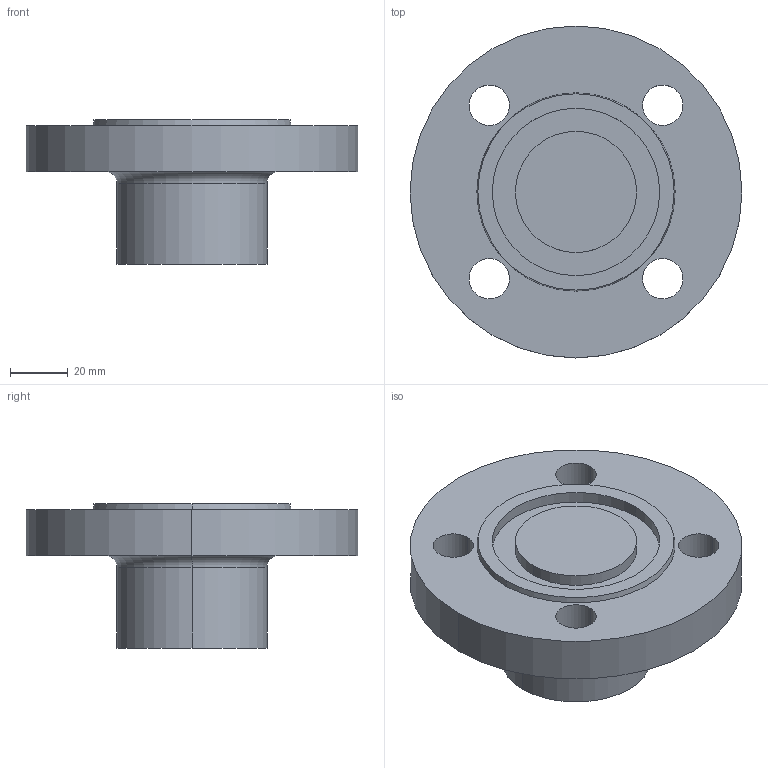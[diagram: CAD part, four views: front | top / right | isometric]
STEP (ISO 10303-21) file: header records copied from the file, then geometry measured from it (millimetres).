
FILE_DESCRIPTION (( 'STEP AP214' ), '1' );
FILE_NAME ('PN40 DN25 Type 21(i) - Type D Face.STEP', '2018-12-29T20:20:54', ( '' ), ( '' ), 'SwSTEP 2.0', 'SolidWorks 2019', '' );
FILE_SCHEMA (( 'AUTOMOTIVE_DESIGN' ));
Length unit declared in the file: millimetre
Products named in the file (1): PN40 DN25 Type 21(i) - Type D Face
Bounding box: 115 x 115 x 50 mm (x, y, z)
Volume: 227189.8 mm3; surface area: 34708.9 mm2
Topology: 1 solids, 1 shells, 26 faces, 58 edges, 38 vertices
Faces by surface type: cylinder 16, plane 6, torus 2, cone 2
Entity records: 796 total; most frequent: DIRECTION 152, CARTESIAN_POINT 123, ORIENTED_EDGE 116, AXIS2_PLACEMENT_3D 67, EDGE_CURVE 58, CIRCLE 40, EDGE_LOOP 38, VERTEX_POINT 38
